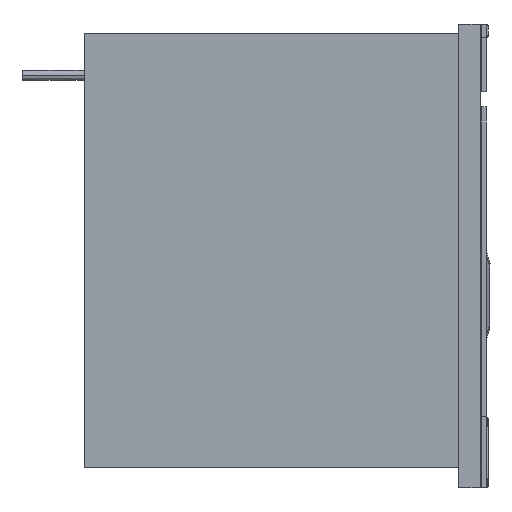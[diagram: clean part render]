
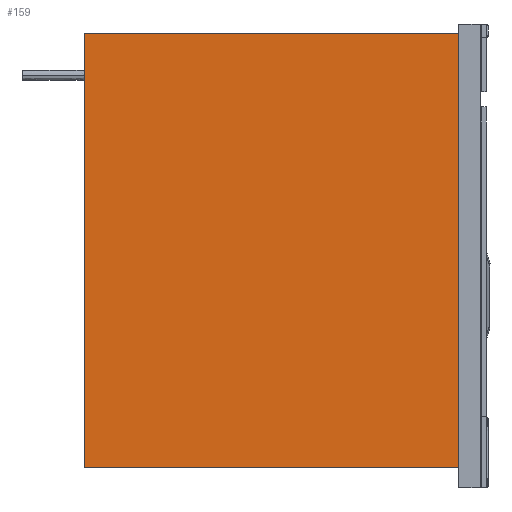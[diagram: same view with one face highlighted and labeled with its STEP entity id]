
A CAD part, front view. The second image highlights one B-rep face of the part: STEP entity #159.
In plain terms, the highlighted free-form (B-spline) face has degree [1, 1] with [2, 2] control points.
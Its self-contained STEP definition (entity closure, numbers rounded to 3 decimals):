
#159=ADVANCED_FACE('',(#235),#983,.T.);
#235=FACE_OUTER_BOUND('',#311,.T.);
#311=EDGE_LOOP('',(#519,#520,#521,#522));
#519=ORIENTED_EDGE('',*,*,#766,.F.);
#520=ORIENTED_EDGE('',*,*,#765,.F.);
#521=ORIENTED_EDGE('',*,*,#757,.T.);
#522=ORIENTED_EDGE('',*,*,#763,.T.);
#757=EDGE_CURVE('',#896,#895,#1089,.T.);
#763=EDGE_CURVE('',#895,#899,#1095,.T.);
#765=EDGE_CURVE('',#896,#900,#1097,.T.);
#766=EDGE_CURVE('',#900,#899,#1098,.T.);
#895=VERTEX_POINT('',#1914);
#896=VERTEX_POINT('',#1915);
#899=VERTEX_POINT('',#1918);
#900=VERTEX_POINT('',#1919);
#983=B_SPLINE_SURFACE_WITH_KNOTS('',1,1,((#1904,#1905),(#1906,#1907)),.UNSPECIFIED.,
.F.,.F.,.F.,(2,2),(2,2),(0.,1.),(0.,0.937),.UNSPECIFIED.);
#1089=B_SPLINE_CURVE_WITH_KNOTS('',1,(#1868,#1869),.UNSPECIFIED.,.F.,.F.,
(2,2),(0.,1.),.UNSPECIFIED.);
#1095=B_SPLINE_CURVE_WITH_KNOTS('',1,(#1880,#1881),.UNSPECIFIED.,.F.,.F.,
(2,2),(0.,0.937),.UNSPECIFIED.);
#1097=B_SPLINE_CURVE_WITH_KNOTS('',1,(#1884,#1885),.UNSPECIFIED.,.F.,.F.,
(2,2),(0.,0.937),.UNSPECIFIED.);
#1098=B_SPLINE_CURVE_WITH_KNOTS('',1,(#1886,#1887),.UNSPECIFIED.,.F.,.F.,
(2,2),(0.091,0.843),.UNSPECIFIED.);
#1868=CARTESIAN_POINT('',(-300.895,-280.055,16.206));
#1869=CARTESIAN_POINT('',(-0.09,-280.055,16.206));
#1880=CARTESIAN_POINT('',(-0.09,-280.055,16.206));
#1881=CARTESIAN_POINT('',(-0.09,-280.055,364.994));
#1884=CARTESIAN_POINT('',(-300.895,-280.055,16.206));
#1885=CARTESIAN_POINT('',(-300.895,-280.055,364.994));
#1886=CARTESIAN_POINT('',(-300.895,-280.055,364.994));
#1887=CARTESIAN_POINT('',(-0.09,-280.055,364.994));
#1904=CARTESIAN_POINT('',(-300.895,-280.055,16.206));
#1905=CARTESIAN_POINT('',(-300.895,-280.055,364.994));
#1906=CARTESIAN_POINT('',(-0.09,-280.055,16.206));
#1907=CARTESIAN_POINT('',(-0.09,-280.055,364.994));
#1914=CARTESIAN_POINT('',(-0.09,-280.055,16.206));
#1915=CARTESIAN_POINT('',(-300.895,-280.055,16.206));
#1918=CARTESIAN_POINT('',(-0.09,-280.055,364.994));
#1919=CARTESIAN_POINT('',(-300.895,-280.055,364.994));
